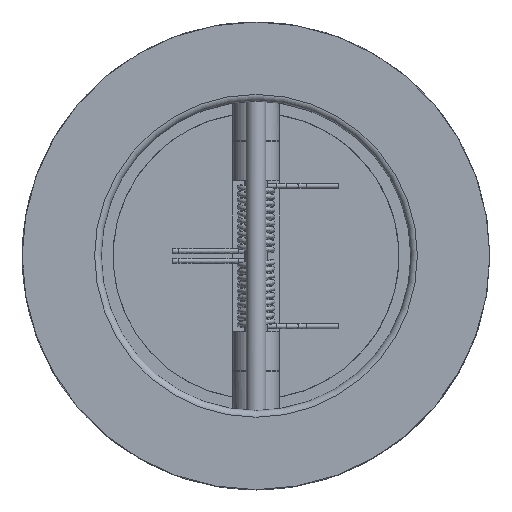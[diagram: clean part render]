
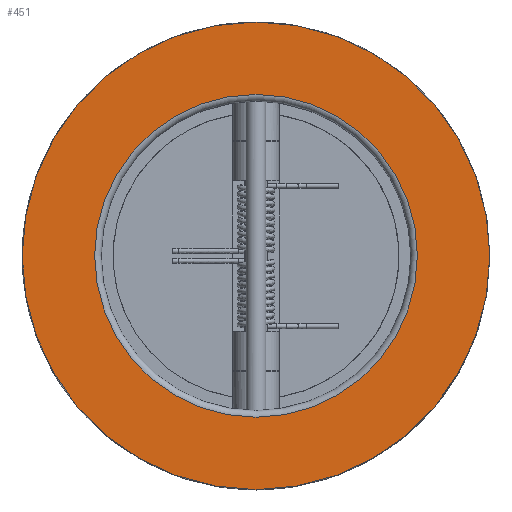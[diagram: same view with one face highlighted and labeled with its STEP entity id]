
A CAD part, top view. The second image highlights one B-rep face of the part: STEP entity #451.
In plain terms, the highlighted planar face has unit normal (0, 0, 1).
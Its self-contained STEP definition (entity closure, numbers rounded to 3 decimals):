
#451 = ADVANCED_FACE( '', ( #1100, #1101 ), #1102, .F. );
#1100 = FACE_BOUND( '', #4297, .T. );
#1101 = FACE_OUTER_BOUND( '', #4298, .T. );
#1102 = PLANE( '', #4299 );
#4297 = EDGE_LOOP( '', ( #10744 ) );
#4298 = EDGE_LOOP( '', ( #10745 ) );
#4299 = AXIS2_PLACEMENT_3D( '', #10746, #10747, #10748 );
#10744 = ORIENTED_EDGE( '', *, *, #12486, .T. );
#10745 = ORIENTED_EDGE( '', *, *, #12487, .F. );
#10746 = CARTESIAN_POINT( '', ( 0., 0., 32. ) );
#10747 = DIRECTION( '', ( 0., 0., -1. ) );
#10748 = DIRECTION( '', ( -1., 0., 0. ) );
#12486 = EDGE_CURVE( '', #13534, #13534, #13535, .T. );
#12487 = EDGE_CURVE( '', #13536, #13536, #13537, .T. );
#13534 = VERTEX_POINT( '', #17307 );
#13535 = CIRCLE( '', #17308, 49. );
#13536 = VERTEX_POINT( '', #17309 );
#13537 = CIRCLE( '', #17310, 71. );
#17307 = CARTESIAN_POINT( '', ( -49., 0., 32. ) );
#17308 = AXIS2_PLACEMENT_3D( '', #21119, #21120, #21121 );
#17309 = CARTESIAN_POINT( '', ( 71., 0., 32. ) );
#17310 = AXIS2_PLACEMENT_3D( '', #21122, #21123, #21124 );
#21119 = CARTESIAN_POINT( '', ( 0., 0., 32. ) );
#21120 = DIRECTION( '', ( 0., 0., -1. ) );
#21121 = DIRECTION( '', ( -1., 0., 0. ) );
#21122 = CARTESIAN_POINT( '', ( 0., 0., 32. ) );
#21123 = DIRECTION( '', ( 0., 0., -1. ) );
#21124 = DIRECTION( '', ( 1., 0., 0. ) );
